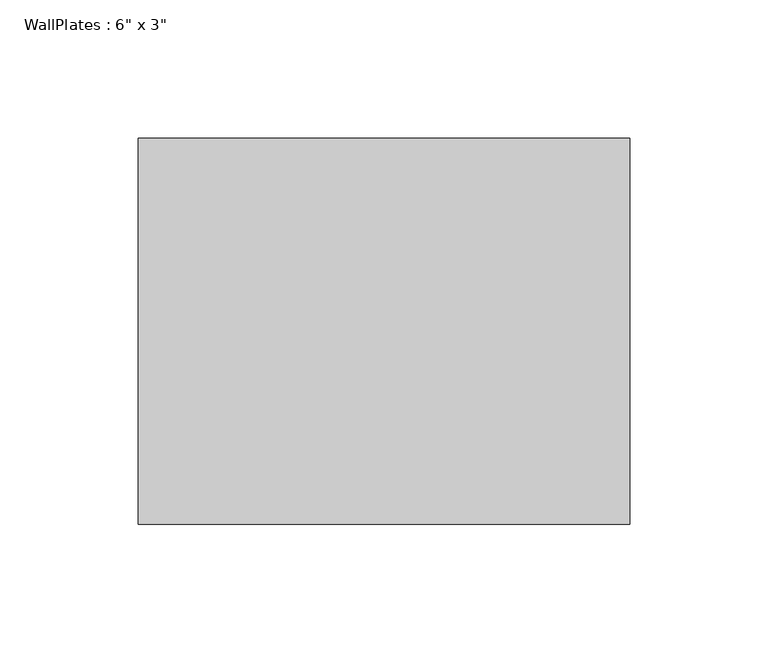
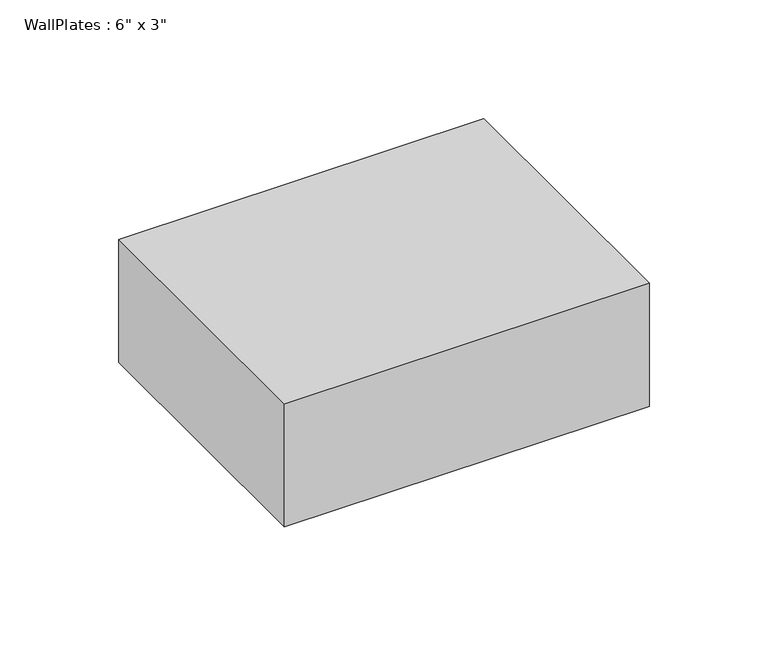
"""IFC4 building model written with IfcOpenShell, lengths in millimetres: beam geometry."""

from ifc_helpers import new_model, si_unit, frame, origin, place, context, project, spatial, polyline, outline, extrude, source, transform, mapped, element, save


def beam_c7850aeb(model_context):
    return source(origin(), model_context, "Body", "SweptSolid", [
        extrude(outline(polyline([(-88.905, -69.85), (-88.905, 69.85), (88.905, 69.85), (88.905, -69.85), (-88.905, -69.85)])), frame((0.0, 0.0, -31.75), z_axis=(0.0, 0.0, 1.0), x_axis=(1.0, 0.0, 0.0)), (0.0, 0.0, 1.0), 63.5),
    ])


if __name__ == "__main__":
    model = new_model("IFC4")
    model_context = context("Model", 3, world=origin())
    ifc_project = project(units=[si_unit("LENGTHUNIT", "METRE", prefix="MILLI")], contexts=[model_context])
    site = spatial("IfcSite", under=ifc_project)
    building = spatial("IfcBuilding", under=site)
    placement = place(None, origin())
    beam_shape = beam_c7850aeb(model_context)
    element("IfcBeam", 1, ObjectType="WallPlates : 6\" x 3\"", at=placement, inside=building, context=model_context, shape_type="MappedRepresentation", body=[
        mapped(beam_shape, transform((0.0, 0.0, 0.0), x_axis=(1.0, 0.0, 0.0), y_axis=(0.0, 1.0, 0.0), z_axis=(0.0, 0.0, 1.0))),
    ])
    save(model, "model.ifc")
